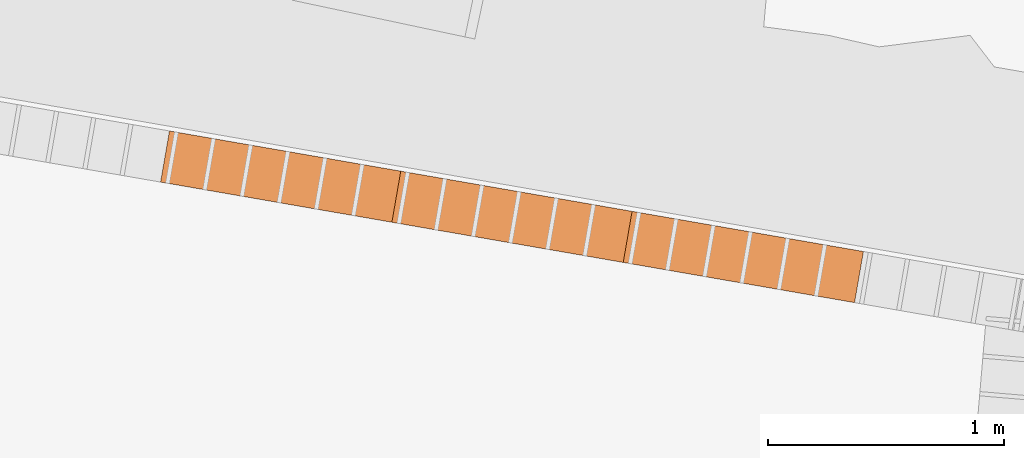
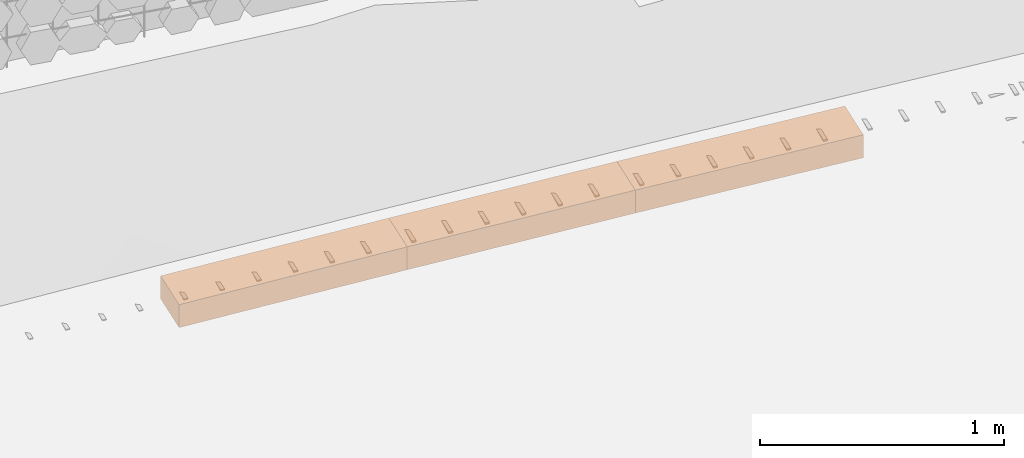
# Not in any storey, part 32 of 33: 3 proxies.
"""IFC4 model written with IfcOpenShell, lengths in metres."""

import ifcopenshell
import ifcopenshell.guid

model = None  # the IFC model being written
_history = None  # IfcOwnerHistory: only IFC2X3 demands one
_inside = {}  # id of a spatial element -> (the spatial element, [elements in it])
_under = {}  # id of a project, library or spatial element -> (it, [spatial elements below it])
_declared = {}  # id of a project -> (the project, [libraries it declares])
_typed = {}  # id of a type object -> (the type object, [elements of that type])
_made_of = {}  # id of a material, layer set ... -> (it, [elements and type objects made of it])


def new_model(schema):
    """Start an empty IFC model of exactly this schema.

    Asked for "IFC4X3", IfcOpenShell would pick the latest addendum, in which some entities
    have other attributes; the version numbers below select the first issue.
    IFC2X3 requires an IfcOwnerHistory on every rooted entity: one is made here for all.
    """
    global model, _history
    if schema == "IFC4X3":
        model = ifcopenshell.file(schema_version=(4, 3, 0, 0))
    else:
        model = ifcopenshell.file(schema=schema)
    _inside.clear()
    _under.clear()
    _declared.clear()
    _typed.clear()
    _made_of.clear()
    _history = None
    if model.schema == "IFC2X3":
        org = make("IfcOrganization", Name="unknown")
        user = make(
            "IfcPersonAndOrganization",
            ThePerson=make("IfcPerson", FamilyName="unknown"),
            TheOrganization=org,
        )
        app = make(
            "IfcApplication",
            ApplicationDeveloper=org,
            Version="unknown",
            ApplicationFullName="unknown",
            ApplicationIdentifier="unknown",
        )
        _history = make(
            "IfcOwnerHistory",
            OwningUser=user,
            OwningApplication=app,
            ChangeAction="ADDED",
            CreationDate=0,
        )
    return model


def make(cls, **values):
    """One entity of the class cls with the attributes given. An attribute that is None is left unset."""
    return model.create_entity(
        cls, **{name: value for name, value in values.items() if value is not None}
    )


def rooted(cls, **values):
    """An entity with a GlobalId (a new one), such as an element, a storey or a relation."""
    return make(cls, GlobalId=ifcopenshell.guid.new(), OwnerHistory=_history, **values)


def si_unit(unit_type, name, prefix=None):
    """IfcSIUnit, for example si_unit("LENGTHUNIT", "METRE", prefix="MILLI")."""
    return make("IfcSIUnit", UnitType=unit_type, Prefix=prefix, Name=name)


def assignment(units):
    """IfcUnitAssignment: the units of a project."""
    return None if units is None else make("IfcUnitAssignment", Units=units)


def point(xyz):
    """IfcCartesianPoint."""
    return None if xyz is None else make("IfcCartesianPoint", Coordinates=xyz)


def direction(xyz):
    """IfcDirection."""
    return None if xyz is None else make("IfcDirection", DirectionRatios=xyz)


def frame(location, z_axis=None, x_axis=None):
    """IfcAxis2Placement3D, a coordinate frame: its origin and axes. An axis left out is left unset."""
    return make(
        "IfcAxis2Placement3D",
        Location=point(location),
        Axis=direction(z_axis),
        RefDirection=direction(x_axis),
    )


def origin_with_axes():
    """The frame at (0, 0, 0) with the z axis (0, 0, 1) and the x axis (1, 0, 0) written out."""
    return frame((0.0, 0.0, 0.0), z_axis=(0.0, 0.0, 1.0), x_axis=(1.0, 0.0, 0.0))


def place(relative_to, where):
    """IfcLocalPlacement: puts the frame where relative to a parent placement (None: the world)."""
    return make(
        "IfcLocalPlacement", PlacementRelTo=relative_to, RelativePlacement=where
    )


def context(
    kind, dimensions, precision=None, world=None, true_north=None, identifier=None
):
    """IfcGeometricRepresentationContext, for example the 3D "Model" context."""
    return make(
        "IfcGeometricRepresentationContext",
        ContextIdentifier=identifier,
        ContextType=kind,
        CoordinateSpaceDimension=dimensions,
        Precision=precision,
        WorldCoordinateSystem=world,
        TrueNorth=true_north,
    )


def subcontext(parent, identifier, kind, view, scale=None):
    """IfcGeometricRepresentationSubContext, for example "Body" below "Model"."""
    return make(
        "IfcGeometricRepresentationSubContext",
        ContextIdentifier=identifier,
        ContextType=kind,
        ParentContext=parent,
        TargetScale=scale,
        TargetView=view,
    )


def project(units=None, contexts=None):
    """IfcProject with its units and contexts."""
    return rooted(
        "IfcProject",
        Name="project",
        RepresentationContexts=contexts,
        UnitsInContext=assignment(units),
    )


def spatial(cls, under=None, at=None, **own):
    """A site, building, storey or space (cls), placed at a placement, below another one or the project."""
    s = rooted(cls, ObjectPlacement=at, **own)
    if under is not None:
        _under.setdefault(under.id(), (under, []))[1].append(s)
    return s


def point_list(points):
    """IfcCartesianPointList2D or 3D."""
    cls = (
        "IfcCartesianPointList2D" if len(points[0]) == 2 else "IfcCartesianPointList3D"
    )
    return make(cls, CoordList=points)


def polygons(points, faces, closed=None, point_numbers=None):
    """IfcPolygonalFaceSet: a face is its outer loop, then its inner loops; points numbered from 1."""
    made = []
    for loops in faces:
        if len(loops) == 1:
            made.append(make("IfcIndexedPolygonalFace", CoordIndex=loops[0]))
        else:
            made.append(
                make(
                    "IfcIndexedPolygonalFaceWithVoids",
                    CoordIndex=loops[0],
                    InnerCoordIndices=loops[1:],
                )
            )
    return make(
        "IfcPolygonalFaceSet",
        Coordinates=point_list(points),
        Closed=closed,
        Faces=made,
        PnIndex=point_numbers,
    )


def shape(context_of_items, identifier, shape_type, items):
    """IfcShapeRepresentation: the items that make up one representation, for example the "Body"."""
    return make(
        "IfcShapeRepresentation",
        ContextOfItems=context_of_items,
        RepresentationIdentifier=identifier,
        RepresentationType=shape_type,
        Items=items,
    )


def material(Name=None, Category=None):
    """IfcMaterial."""
    return make("IfcMaterial", Name=Name, Category=Category)


def made_of(thing, what):
    """Note that an element or type object is made of a material, layer set ...; save() writes the relation."""
    if what is not None:
        _made_of.setdefault(what.id(), (what, []))[1].append(thing)
    return thing


def element(
    cls,
    number,
    at=None,
    inside=None,
    cuts=None,
    type_object=None,
    material=None,
    context=None,
    identifier="Body",
    shape_type=None,
    held_by="IfcProductDefinitionShape",
    body=None,
    shapes=None,
    **own,
):
    """One element of the class cls, such as IfcWall. Its Tag is "e" and its number.

    at: its placement. inside: the storey or other place that contains it. cuts: it is an
    opening in that element (IfcRelVoidsElement). A single representation is given by context,
    identifier, shape_type and body (its items); several are given by shapes. held_by: the class
    of the entity that holds the representations. save() writes the other relations.
    """
    e = rooted(cls, Tag="e%d" % number, ObjectPlacement=at, **own)
    if body is not None:
        shapes = [shape(context, identifier, shape_type, body)]
    if shapes is not None:
        e.Representation = make(held_by, Representations=shapes)
    if inside is not None:
        _inside.setdefault(inside.id(), (inside, []))[1].append(e)
    if cuts is not None:
        rooted(
            "IfcRelVoidsElement", RelatingBuildingElement=cuts, RelatedOpeningElement=e
        )
    if type_object is not None:
        _typed.setdefault(type_object.id(), (type_object, []))[1].append(e)
    return made_of(e, material)


def aggregate(whole, parts):
    """IfcRelAggregates: a whole, such as a stair, and the parts it consists of."""
    return rooted("IfcRelAggregates", RelatingObject=whole, RelatedObjects=parts)


def save(model, path):
    """Write the relations noted so far, then the file.

    IfcRelAggregates (storeys below a building ...), IfcRelContainedInSpatialStructure (elements
    in a storey), IfcRelDefinesByType, IfcRelAssociatesMaterial and IfcRelDeclares: one each for
    every whole, place, type object, material and project.
    """
    for whole, parts in _under.values():
        aggregate(whole, parts)
    for where, things in _inside.values():
        rooted(
            "IfcRelContainedInSpatialStructure",
            RelatedElements=things,
            RelatingStructure=where,
        )
    for kind, things in _typed.values():
        rooted("IfcRelDefinesByType", RelatedObjects=things, RelatingType=kind)
    for what, things in _made_of.values():
        rooted("IfcRelAssociatesMaterial", RelatedObjects=things, RelatingMaterial=what)
    for by, libraries in _declared.values():
        rooted("IfcRelDeclares", RelatingContext=by, RelatedDefinitions=libraries)
    model.write(path)


model = new_model("IFC4")

# Units and contexts
model_context = context("Model", 3, precision=1e-05, world=origin_with_axes(), true_north=direction((0.0, 1.0)))
body_context = subcontext(model_context, "Body", "Model", "MODEL_VIEW")
ifc_project = project(units=[si_unit("LENGTHUNIT", "METRE"), si_unit("AREAUNIT", "SQUARE_METRE"), si_unit("VOLUMEUNIT", "CUBIC_METRE")], contexts=[model_context])

# Site
site_placement = place(None, origin_with_axes())
site = spatial("IfcSite", under=ifc_project, at=site_placement, Name="Lares · Rua das Mercês · artigo 4771")

# Proxies
ifc_material = material(Name="Brita drenante", Category="stone")
proxy_1_placement = place(site_placement, frame((0.0, 0.0, 0.0), z_axis=(0.0, 0.0, 1.0), x_axis=(1.0, -1.03767253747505e-17, 0.0)))
element("IfcBuildingElementProxy", 1, at=proxy_1_placement, inside=site, material=ifc_material, Name="Acesso · dreno lateral raso · leito drenante", ObjectType="Acesso · dreno lateral raso · leito drenante", PredefinedType="USERDEFINED", context=body_context, shape_type="Tessellation", body=[
    polygons([(79.2603476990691, 6.01832661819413, 16.1440905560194), (79.2979954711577, 6.23508142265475, 16.1440905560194), (80.279068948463, 6.06468044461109, 16.1933488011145), (80.2414211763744, 5.84792564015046, 16.1933488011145), (79.2603476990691, 6.01832661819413, 16.2590905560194), (79.2979954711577, 6.23508142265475, 16.2590905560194), (80.279068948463, 6.06468044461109, 16.3083488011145), (80.2414211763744, 5.84792564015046, 16.3083488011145)], [[[4, 3, 2, 1]], [[5, 6, 7, 8]], [[1, 2, 6, 5]], [[2, 3, 7, 6]], [[3, 4, 8, 7]], [[4, 1, 5, 8]]]),
])
proxy_2_placement = place(site_placement, frame((0.0, 0.0, 0.0), z_axis=(0.0, 0.0, 1.0), x_axis=(1.0, -1.03767253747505e-17, 0.0)))
element("IfcBuildingElementProxy", 2, at=proxy_2_placement, inside=site, material=ifc_material, Name="Acesso · dreno lateral raso · leito drenante", ObjectType="Acesso · dreno lateral raso · leito drenante", PredefinedType="USERDEFINED", context=body_context, shape_type="Tessellation", body=[
    polygons([(80.2414213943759, 5.84792560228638, 16.1933488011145), (80.2790687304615, 6.06468048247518, 16.1933488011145), (81.2601552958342, 5.89427926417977, 16.2367724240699), (81.2225079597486, 5.67752438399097, 16.2367724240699), (80.2414213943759, 5.84792560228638, 16.3083488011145), (80.2790687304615, 6.06468048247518, 16.3083488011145), (81.2601552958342, 5.89427926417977, 16.3517724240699), (81.2225079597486, 5.67752438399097, 16.3517724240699)], [[[4, 3, 2, 1]], [[5, 6, 7, 8]], [[1, 2, 6, 5]], [[2, 3, 7, 6]], [[3, 4, 8, 7]], [[4, 1, 5, 8]]]),
])
proxy_3_placement = place(site_placement, frame((0.0, 0.0, 0.0), z_axis=(0.0, 0.0, 1.0), x_axis=(1.0, -1.03767253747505e-17, 0.0)))
element("IfcBuildingElementProxy", 3, at=proxy_3_placement, inside=site, material=ifc_material, Name="Acesso · dreno lateral raso · leito drenante", ObjectType="Acesso · dreno lateral raso · leito drenante", PredefinedType="USERDEFINED", context=body_context, shape_type="Tessellation", body=[
    polygons([(81.222508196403, 5.67752434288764, 16.2367724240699), (81.2601550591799, 5.8942793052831, 16.2367724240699), (82.2412554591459, 5.72387789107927, 16.2737932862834), (82.203608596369, 5.50712292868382, 16.2737932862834), (81.222508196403, 5.67752434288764, 16.3517724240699), (81.2601550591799, 5.8942793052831, 16.3517724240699), (82.2412554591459, 5.72387789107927, 16.3887932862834), (82.203608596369, 5.50712292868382, 16.3887932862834)], [[[4, 3, 2, 1]], [[5, 6, 7, 8]], [[1, 2, 6, 5]], [[2, 3, 7, 6]], [[3, 4, 8, 7]], [[4, 1, 5, 8]]]),
])

save(model, "model.ifc")
